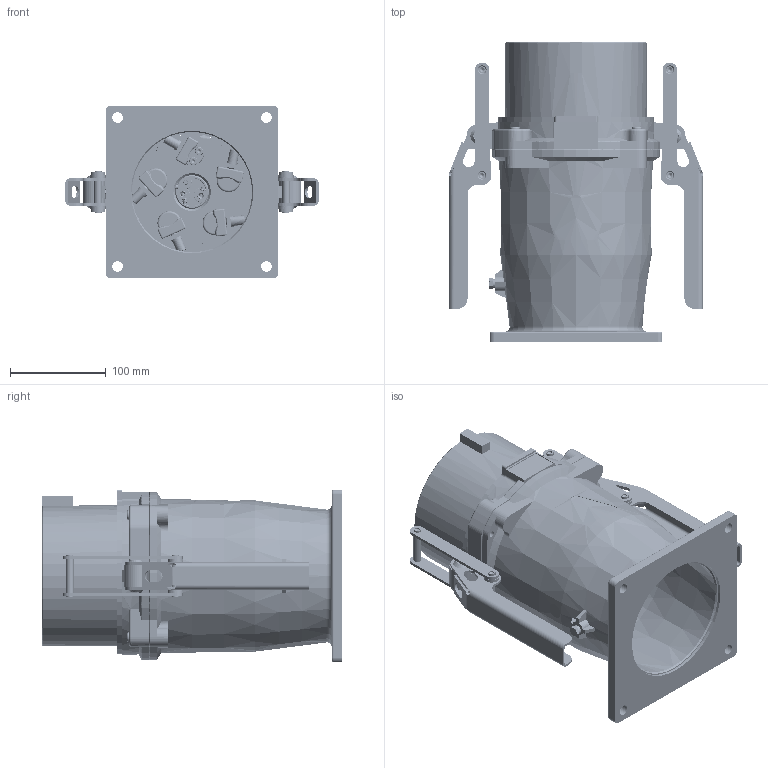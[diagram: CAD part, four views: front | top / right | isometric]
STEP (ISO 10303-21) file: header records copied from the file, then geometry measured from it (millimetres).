
FILE_DESCRIPTION((''),'2;1');
FILE_NAME('MCP-S4_B-LINE_ASM','2019-08-22T10:47:06',('schlabachr'),('MENNEKES'),'CREO PARAMETRIC BY PTC INC, 2018260','CREO PARAMETRIC BY PTC INC, 2018260','');
FILE_SCHEMA(('AUTOMOTIVE_DESIGN { 1 0 10303 214 1 1 1 1 }'));
Products named in the file (43): SOCKET_HEAD_CAP_SCREW_DIN-17959; D_04970; DEI7046-2-R2_M5X12-H2; SICHERUNGSSCHEIBE_SCHNORR_M5; SENKSCHEIBE-M5_ART_14229; D_14800; ERDZEICHENKLEBER; D_04965; SICHERUNGSSCHEIBE_SCHNORR_M6; 11111; 04687_400A_ASM; D_04743; SOCKET_HEAD_THIN_CAP_SCREW_DIN-; HEX_SCREW_GRADEC_DIN-R_S_ISO_40; O-RING_151_77X5_34; SPRING_PIN_SLOTTED_LD_DIN-R_S_S; D_32903; D_30666; SOCKET_SET_SCREW_FLAT_POINT_DIN; D_04741; D_30943; D_30695; 04973; 11207_400A_3L_PE; SOCKET_HEAD_CAP_SCREW_DIN-15398; D_10398; D_03866; D_11708_T; D_11708_NT; B_11708_ASM; SLOTTED_CHEESE_HEAD_SCREW_DIN-R; B_04710_ASM; D_30667; D_30694; 30963_STECKEREINSATZ_400A_3L_PE_ASM; 32897; PLAIN_WASHER_GRADE_A_DIN-R_S_WA; D_04964; D_04963; D_14824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
Assembly tree (118 placements, depth 6):
  MCP-S4_B-LINE_ASM
    MCP-S4_B-LINE_1_ASM
      SOCKET_HEAD_CAP_SCREW_DIN-17959  x8
      D_04970  x4
      DEI7046-2-R2_M5X12-H2  x4
      SICHERUNGSSCHEIBE_SCHNORR_M5  x9
      SENKSCHEIBE-M5_ART_14229  x4
      D_14800
      ERDZEICHENKLEBER
      D_04965  x2
      SICHERUNGSSCHEIBE_SCHNORR_M6  x7
      04687_400A_ASM
        11111
      D_04743
      SOCKET_HEAD_THIN_CAP_SCREW_DIN-  x2
      HEX_SCREW_GRADEC_DIN-R_S_ISO_40
      O-RING_151_77X5_34
      SPRING_PIN_SLOTTED_LD_DIN-R_S_S  x2
      D_32903
      30963_STECKEREINSATZ_400A_3L_PE_ASM
        SOCKET_HEAD_THIN_CAP_SCREW_DIN-  x2
        D_30666  x3
        SOCKET_SET_SCREW_FLAT_POINT_DIN  x10
        D_04741  x10
        D_30943  x5
        SICHERUNGSSCHEIBE_SCHNORR_M5  x3
        D_30695  x4
        04973
        11207_400A_3L_PE
        SOCKET_HEAD_CAP_SCREW_DIN-15398
        B_04710_ASM
          D_10398  x2
          D_03866  x2
          B_11708_ASM
            D_11708_T
            D_11708_NT
          SLOTTED_CHEESE_HEAD_SCREW_DIN-R  x4
        D_30667
        D_30694
      32897
      10309_ASM  x2
        PLAIN_WASHER_GRADE_A_DIN-R_S_WA
        D_04964
        D_04963
        D_14824
Bounding box: 264 x 313 x 180.08 mm (x, y, z)
Volume: 2286114.7 mm3; surface area: 898557.4 mm2
Topology: 120 solids, 120 shells, 5543 faces, 14899 edges, 9508 vertices
Faces by surface type: plane 1835, cylinder 1565, torus 932, cone 770, bspline 316, extrusion 81, sphere 44
Entity records: 124334 total; most frequent: CARTESIAN_POINT 32662, ORIENTED_EDGE 13750, DIRECTION 13594, PRESENTATION_STYLE_ASSIGNMENT 6934, STYLED_ITEM 6902, EDGE_CURVE 6875, CURVE_STYLE 6867, AXIS2_PLACEMENT_3D 5411
